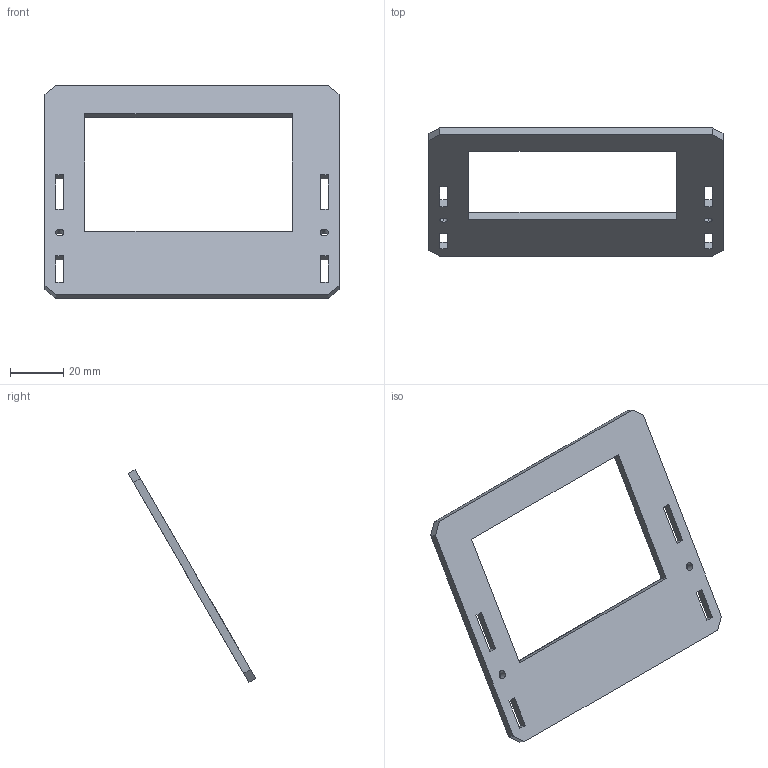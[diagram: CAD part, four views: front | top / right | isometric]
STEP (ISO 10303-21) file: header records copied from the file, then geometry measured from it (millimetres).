
FILE_DESCRIPTION(/* description */ (''),/* implementation_level */ '2;1');
FILE_NAME(/* name */ 'TAPAPA~1',/* time_stamp */ '2019-04-01T20:05:24-03:00',/* author */ (''),/* organization */ (''),/* preprocessor_version */ 'ST-DEVELOPER v16.5',/* originating_system */ '',/* authorisation */ '');
FILE_SCHEMA (('AUTOMOTIVE_DESIGN'));
Length unit declared in the file: millimetre
Products named in the file (1): Document
Bounding box: 110.5 x 48 x 80.15 mm (x, y, z)
Volume: 17556.6 mm3; surface area: 14123.5 mm2
Topology: 1 solids, 1 shells, 38 faces, 108 edges, 72 vertices
Faces by surface type: plane 26, bspline 12
Entity records: 1301 total; most frequent: CARTESIAN_POINT 556, ORIENTED_EDGE 216, EDGE_CURVE 108, B_SPLINE_CURVE_WITH_KNOTS 96, VERTEX_POINT 72, EDGE_LOOP 52, ADVANCED_FACE 38, FACE_OUTER_BOUND 38
